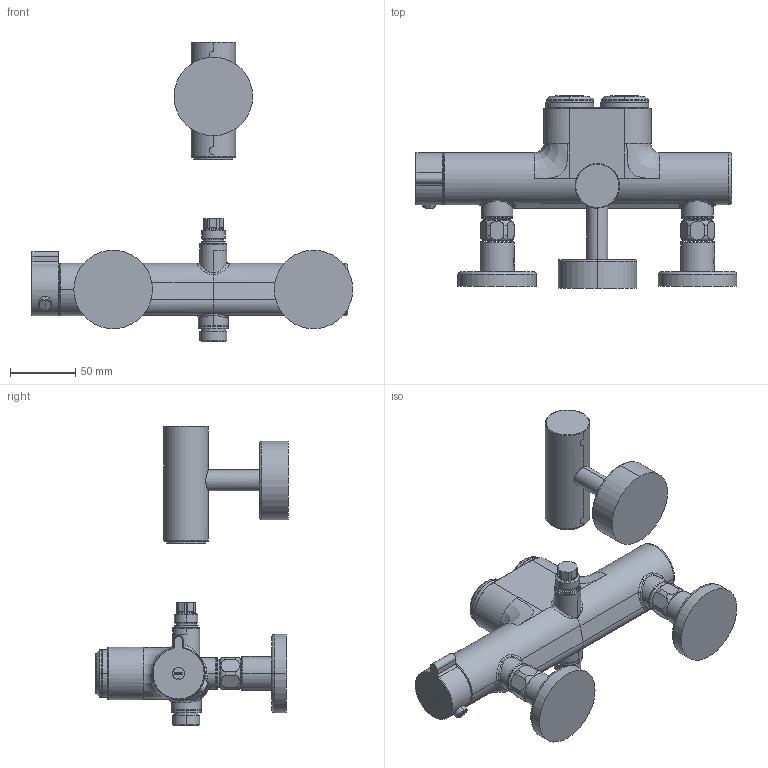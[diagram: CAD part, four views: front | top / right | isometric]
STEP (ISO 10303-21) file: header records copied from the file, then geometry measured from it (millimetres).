
FILE_DESCRIPTION((''),'2;1');
FILE_NAME('153_ABGANG1_SW0003','2021-06-16T08:04:03',('KS894'),(''),'CREO PARAMETRIC BY PTC INC, 2018500','CREO PARAMETRIC BY PTC INC, 2018500','');
FILE_SCHEMA(('CONFIG_CONTROL_DESIGN'));
Length unit declared in the file: millimetre
Products named in the file (1): 153_ABGANG1_SW0003
Bounding box: 245.6 x 147.07 x 228.91 mm (x, y, z)
Volume: 718727.1 mm3; surface area: 99373.6 mm2
Topology: 4 solids, 4 shells, 533 faces, 1315 edges, 804 vertices
Faces by surface type: cylinder 179, plane 122, torus 108, bspline 60, cone 44, sphere 14, extrusion 6
Entity records: 25412 total; most frequent: CARTESIAN_POINT 13130, ORIENTED_EDGE 2608, DIRECTION 2573, EDGE_CURVE 1304, AXIS2_PLACEMENT_3D 1087, VERTEX_POINT 804, CIRCLE 620, EDGE_LOOP 558
